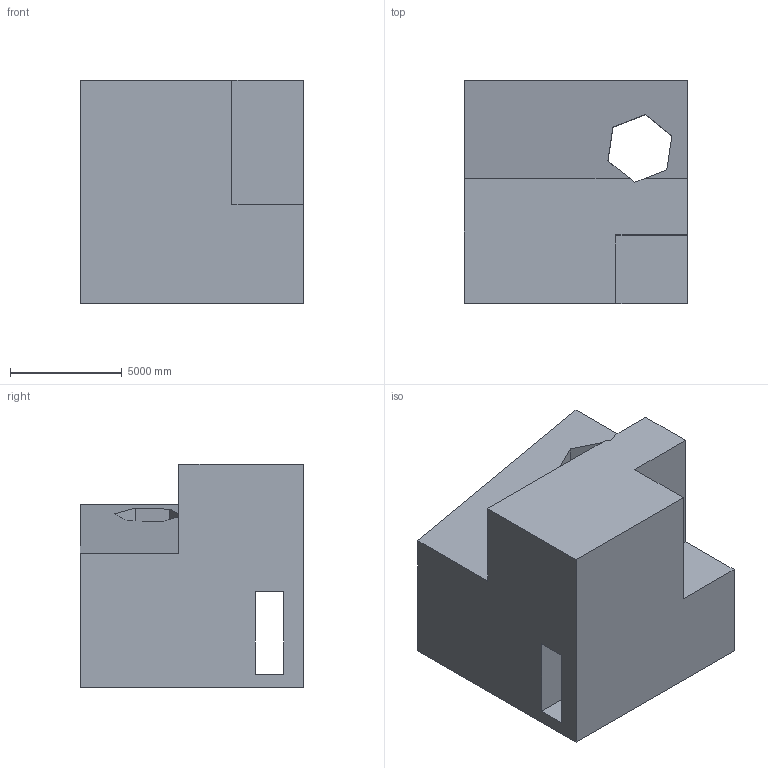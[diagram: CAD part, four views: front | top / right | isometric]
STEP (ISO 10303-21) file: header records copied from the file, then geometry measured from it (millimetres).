
FILE_DESCRIPTION (( 'STEP AP203' ), '1' );
FILE_NAME ('70.STEP', '2022-08-31T11:23:40', ( 'user' ), ( '' ), 'SwSTEP 2.0', 'SolidWorks 2021', '' );
FILE_SCHEMA (( 'CONFIG_CONTROL_DESIGN' ));
Length unit declared in the file: centimetre
Products named in the file (1): 70
Bounding box: 10000 x 10000 x 10000 mm (x, y, z)
Volume: 722915847115.2 mm3; surface area: 724658434 mm2
Topology: 1 solids, 1 shells, 22 faces, 63 edges, 42 vertices
Faces by surface type: plane 22
Entity records: 792 total; most frequent: CARTESIAN_POINT 128, ORIENTED_EDGE 126, DIRECTION 109, EDGE_CURVE 63, VECTOR 63, LINE 63, VERTEX_POINT 42, EDGE_LOOP 25
